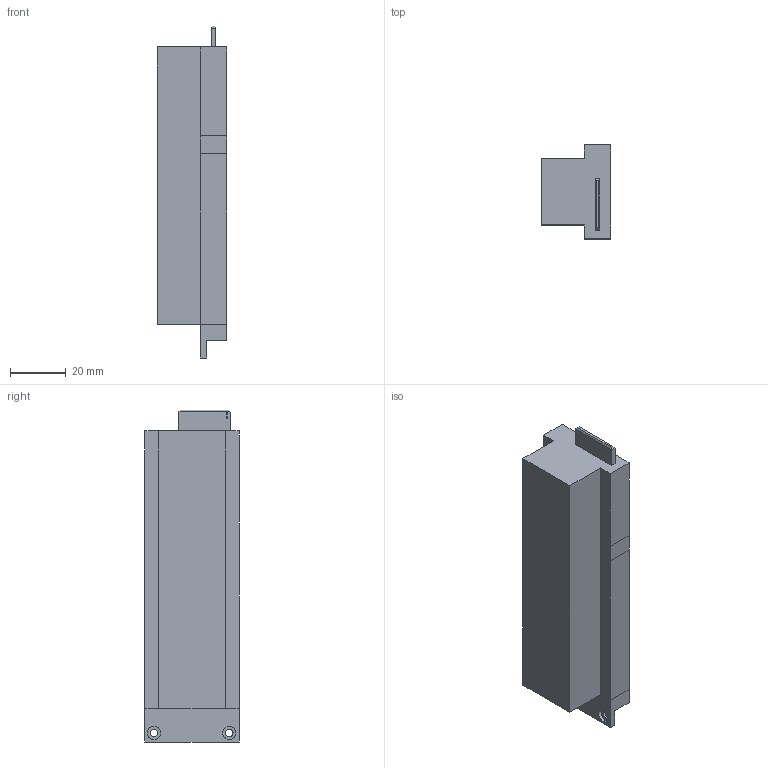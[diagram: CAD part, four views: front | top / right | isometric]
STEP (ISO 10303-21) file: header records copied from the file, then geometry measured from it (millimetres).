
FILE_DESCRIPTION (( 'STEP AP214' ), '1' );
FILE_NAME ('260826 E1.S_25.STEP', '2026-08-26T21:13:03', ( '' ), ( '' ), 'SwSTEP 2.0', 'SolidWorks 2022', '' );
FILE_SCHEMA (( 'AUTOMOTIVE_DESIGN' ));
Length unit declared in the file: millimetre
Products named in the file (1): 260826 E1.S_25
Bounding box: 25 x 33.75 x 118.75 mm (x, y, z)
Volume: 70817.8 mm3; surface area: 14386.6 mm2
Topology: 2 solids, 2 shells, 53 faces, 131 edges, 88 vertices
Faces by surface type: plane 45, cylinder 8
Entity records: 1729 total; most frequent: CARTESIAN_POINT 273, ORIENTED_EDGE 262, DIRECTION 255, EDGE_CURVE 131, VECTOR 115, LINE 115, VERTEX_POINT 88, AXIS2_PLACEMENT_3D 70
